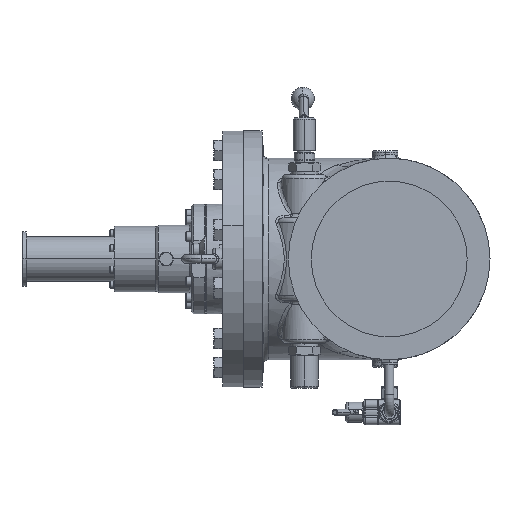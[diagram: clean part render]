
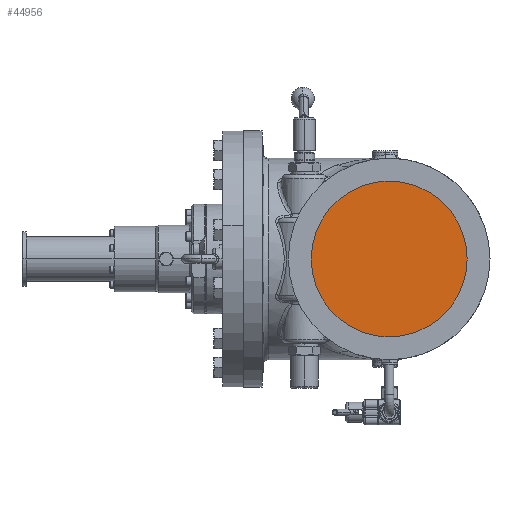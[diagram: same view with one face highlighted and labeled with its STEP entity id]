
A CAD part, left-side view. The second image highlights one B-rep face of the part: STEP entity #44956.
In plain terms, the highlighted planar face has unit normal (-1, 0, 0).
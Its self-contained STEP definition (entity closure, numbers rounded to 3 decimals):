
#10071=CARTESIAN_POINT('',(-235.,0.,0.));
#10072=DIRECTION('',(-1.,0.,0.));
#10073=DIRECTION('',(0.,1.,0.));
#10074=AXIS2_PLACEMENT_3D('',#10071,#10072,#10073);
#10076=CARTESIAN_POINT('',(-235.,0.,0.));
#10077=DIRECTION('',(1.,0.,0.));
#10078=DIRECTION('',(0.,1.,0.));
#10079=AXIS2_PLACEMENT_3D('',#10076,#10077,#10078);
#30954=CARTESIAN_POINT('',(-235.,108.,0.));
#30956=VERTEX_POINT('',#30954);
#30962=CARTESIAN_POINT('',(-235.,-108.,0.));
#30964=VERTEX_POINT('',#30962);
#44947=CARTESIAN_POINT('',(-235.,0.,0.));
#44948=DIRECTION('',(1.,0.,0.));
#44949=DIRECTION('',(0.,-1.,0.));
#44950=AXIS2_PLACEMENT_3D('',#44947,#44948,#44949);
#44951=PLANE('',#44950);
#44952=ORIENTED_EDGE('',*,*,#44940,.F.);
#44953=ORIENTED_EDGE('',*,*,#44929,.T.);
#44954=EDGE_LOOP('',(#44952,#44953));
#44955=FACE_OUTER_BOUND('',#44954,.F.);
#44956=ADVANCED_FACE('',(#44955),#44951,.F.);
#10075=CIRCLE('',#10074,108.);
#10080=CIRCLE('',#10079,108.);
#44929=EDGE_CURVE('',#30956,#30964,#10080,.T.);
#44940=EDGE_CURVE('',#30956,#30964,#10075,.T.);
